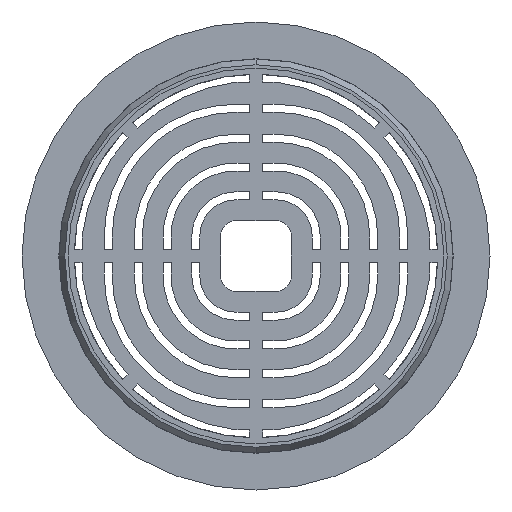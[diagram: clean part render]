
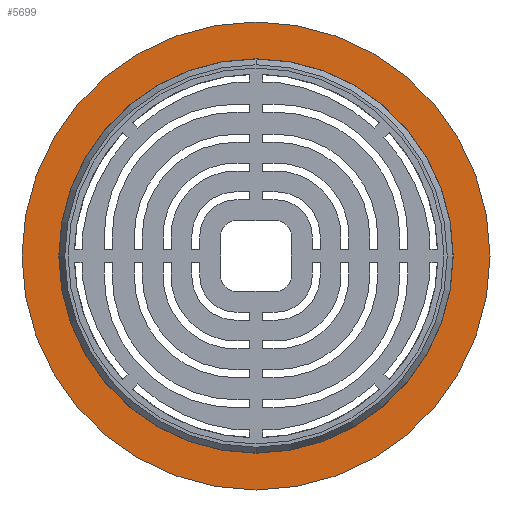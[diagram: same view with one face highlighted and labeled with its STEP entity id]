
A CAD part, left-side view. The second image highlights one B-rep face of the part: STEP entity #5699.
In plain terms, the highlighted planar face has unit normal (-1, 0, 0).
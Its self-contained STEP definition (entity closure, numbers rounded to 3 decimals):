
#236=CARTESIAN_POINT('',(0.,0.,0.));
#237=DIRECTION('',(1.,0.,0.));
#238=DIRECTION('',(0.,0.,-1.));
#239=AXIS2_PLACEMENT_3D('',#236,#237,#238);
#241=CARTESIAN_POINT('',(0.,0.,0.));
#242=DIRECTION('',(-1.,0.,0.));
#243=DIRECTION('',(0.,0.,-1.));
#244=AXIS2_PLACEMENT_3D('',#241,#242,#243);
#246=CARTESIAN_POINT('',(0.,0.,0.));
#247=DIRECTION('',(-1.,0.,0.));
#248=DIRECTION('',(0.,0.,-1.));
#249=AXIS2_PLACEMENT_3D('',#246,#247,#248);
#251=CARTESIAN_POINT('',(0.,0.,0.));
#252=DIRECTION('',(-1.,0.,0.));
#253=DIRECTION('',(0.,0.,1.));
#254=AXIS2_PLACEMENT_3D('',#251,#252,#253);
#4580=CARTESIAN_POINT('',(0.,0.,35.));
#4581=VERTEX_POINT('',#4580);
#4582=CARTESIAN_POINT('',(0.,0.,-35.));
#4583=VERTEX_POINT('',#4582);
#4592=CARTESIAN_POINT('',(0.,0.,-29.5));
#4593=VERTEX_POINT('',#4592);
#4594=CARTESIAN_POINT('',(0.,0.,29.5));
#4595=VERTEX_POINT('',#4594);
#5684=CARTESIAN_POINT('',(0.,0.,0.));
#5685=DIRECTION('',(-1.,0.,0.));
#5686=DIRECTION('',(0.,-1.,0.));
#5687=AXIS2_PLACEMENT_3D('',#5684,#5685,#5686);
#5688=PLANE('',#5687);
#5690=ORIENTED_EDGE('',*,*,#5689,.T.);
#5692=ORIENTED_EDGE('',*,*,#5691,.F.);
#5693=EDGE_LOOP('',(#5690,#5692));
#5694=FACE_OUTER_BOUND('',#5693,.F.);
#5695=ORIENTED_EDGE('',*,*,#5666,.T.);
#5696=ORIENTED_EDGE('',*,*,#5651,.T.);
#5697=EDGE_LOOP('',(#5695,#5696));
#5698=FACE_BOUND('',#5697,.F.);
#5699=ADVANCED_FACE('',(#5694,#5698),#5688,.T.);
#240=CIRCLE('',#239,35.);
#245=CIRCLE('',#244,35.);
#250=CIRCLE('',#249,29.5);
#255=CIRCLE('',#254,29.5);
#5651=EDGE_CURVE('',#4595,#4593,#255,.T.);
#5666=EDGE_CURVE('',#4593,#4595,#250,.T.);
#5689=EDGE_CURVE('',#4583,#4581,#240,.T.);
#5691=EDGE_CURVE('',#4583,#4581,#245,.T.);
